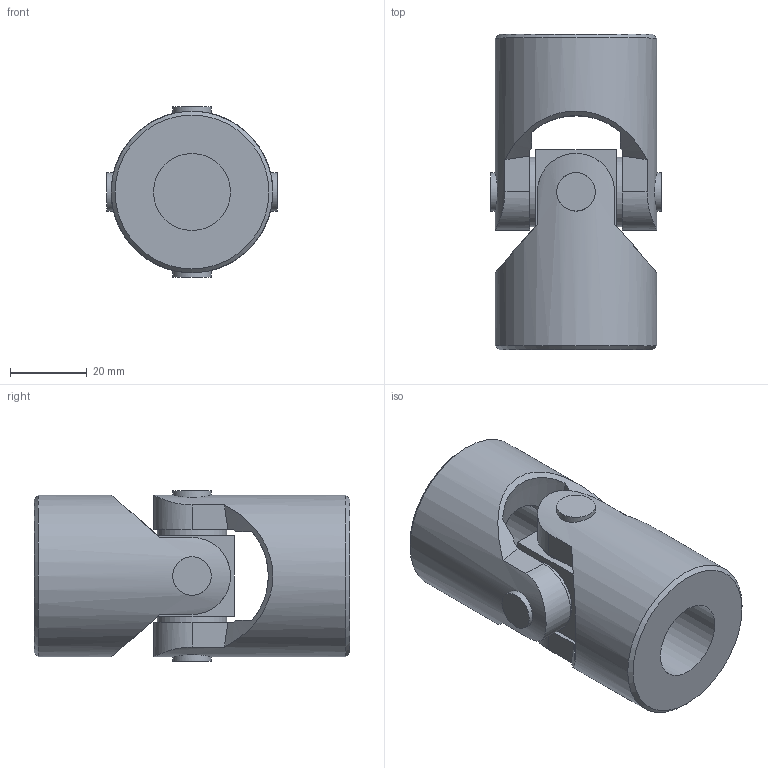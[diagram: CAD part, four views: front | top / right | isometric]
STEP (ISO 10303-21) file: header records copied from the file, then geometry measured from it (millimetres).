
FILE_DESCRIPTION(/* description */ ('STAINLESS STEEL SINGLE JOINTS Series X DIN 808 -2-'),/* implementation_level */ '2;1');
FILE_NAME(/* name */ '\\SRV2016\societa\Stefano\Disegni 3D\0Catalogo 3D\13Singoli X\Ø42_3X_SX0S2000.stp',/* time_stamp */ '2023-05-12T15:54:51+02:00',/* author */ ('acquisti'),/* organization */ ('MARIOFERRI'),/* preprocessor_version */ 'ST-DEVELOPER v15.6',/* originating_system */ 'Autodesk Inventor 2015',/* authorisation */ '');
FILE_SCHEMA (('AUTOMOTIVE_DESIGN { 1 0 10303 214 3 1 1 }'));
Length unit declared in the file: millimetre
Products named in the file (3): 3X SFE; 3X MOS; Ø42_3X_SX0S2000
Assembly tree (3 placements, depth 2):
  Ø42_3X_SX0S2000
    3X SFE
    3X MOS  x2
Bounding box: 44.4 x 82 x 44.4 mm (x, y, z)
Volume: 78061.8 mm3; surface area: 21746.2 mm2
Topology: 3 solids, 3 shells, 64 faces, 160 edges, 108 vertices
Faces by surface type: plane 32, cylinder 18, cone 12, torus 2
Full cylindrical faces by diameter (mm): 10 x4, 18 x4, 20 x2, 22 x2, 42 x2
Entity records: 1292 total; most frequent: CARTESIAN_POINT 412, DIRECTION 168, ORIENTED_EDGE 152, EDGE_CURVE 76, AXIS2_PLACEMENT_3D 72, EDGE_LOOP 58, VERTEX_POINT 58, FACE_OUTER_BOUND 39
